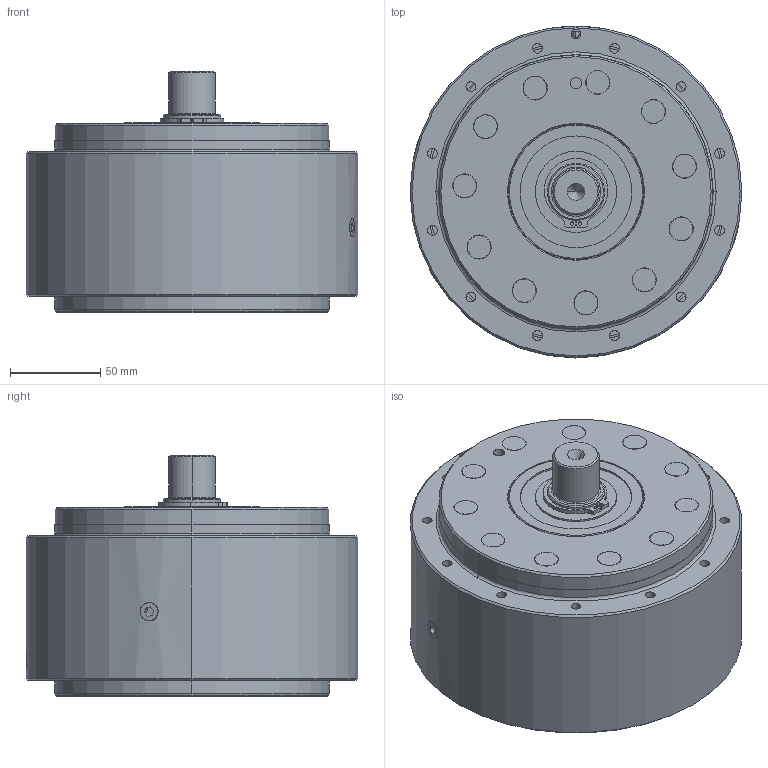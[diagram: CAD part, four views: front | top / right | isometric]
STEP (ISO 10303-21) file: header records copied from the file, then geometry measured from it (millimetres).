
FILE_DESCRIPTION (( 'STEP AP214' ), '1' );
FILE_NAME ('DM24RRRFTLS0000.STEP', '2019-10-30T16:59:50', ( '' ), ( '' ), 'SwSTEP 2.0', 'SolidWorks 2019', '' );
FILE_SCHEMA (( 'AUTOMOTIVE_DESIGN' ));
Length unit declared in the file: millimetre
Products named in the file (1): DM24RRRFTLS0000
Bounding box: 184.15 x 184.15 x 134.15 mm (x, y, z)
Surface area: 149781.5 mm2 (no closed solid volume)
Topology: 0 solids, 26 shells, 283 faces, 731 edges, 481 vertices
Faces by surface type: cylinder 143, plane 66, cone 58, torus 16
Entity records: 12301 total; most frequent: CARTESIAN_POINT 2018, DIRECTION 1678, ORIENTED_EDGE 1254, EDGE_CURVE 729, AXIS2_PLACEMENT_3D 695, VERTEX_POINT 481, CIRCLE 411, EDGE_LOOP 349
